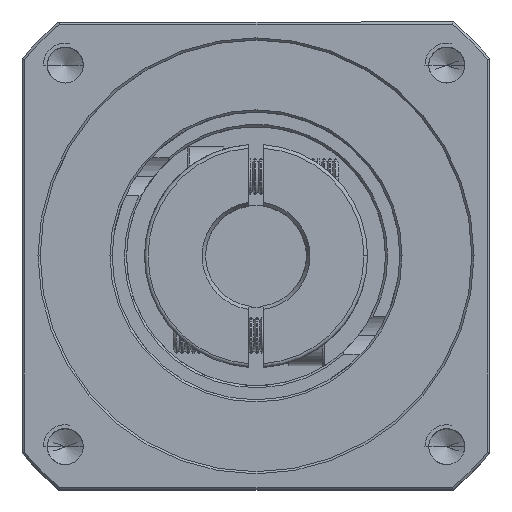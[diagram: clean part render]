
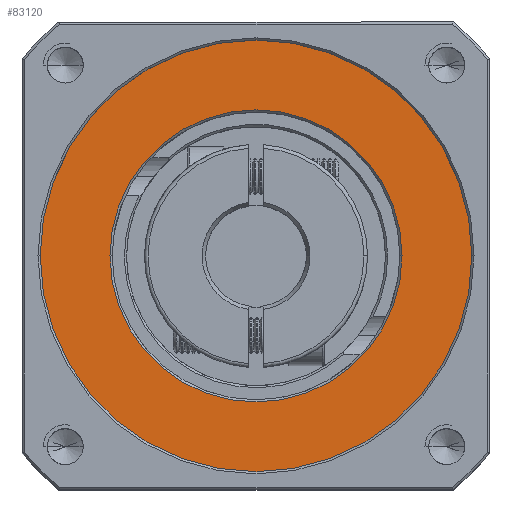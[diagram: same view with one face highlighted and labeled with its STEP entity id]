
A CAD part, top view. The second image highlights one B-rep face of the part: STEP entity #83120.
In plain terms, the highlighted planar face has unit normal (0, 0, 1).
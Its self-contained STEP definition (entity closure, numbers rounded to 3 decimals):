
#3950 = CIRCLE ( 'NONE', #61082, 30. ) ;
#4680 = VERTEX_POINT ( 'NONE', #36143 ) ;
#7693 = AXIS2_PLACEMENT_3D ( 'NONE', #92798, #40400, #101512 ) ;
#7899 = EDGE_LOOP ( 'NONE', ( #26863, #26972 ) ) ;
#8977 = EDGE_CURVE ( 'NONE', #4680, #63968, #44929, .T. ) ;
#12480 = CARTESIAN_POINT ( 'NONE',  ( -42.303, 26.852, -14.843 ) ) ;
#13452 = VERTEX_POINT ( 'NONE', #19909 ) ;
#13550 = EDGE_LOOP ( 'NONE', ( #70887, #32630 ) ) ;
#19909 = CARTESIAN_POINT ( 'NONE',  ( -72.303, 26.852, -14.843 ) ) ;
#21336 = DIRECTION ( 'NONE',  ( 1., 0., 0. ) ) ;
#23007 = EDGE_CURVE ( 'NONE', #108822, #13452, #55314, .T. ) ;
#26863 = ORIENTED_EDGE ( 'NONE', *, *, #62738, .T. ) ;
#26972 = ORIENTED_EDGE ( 'NONE', *, *, #8977, .T. ) ;
#29576 = EDGE_CURVE ( 'NONE', #13452, #108822, #3950, .T. ) ;
#32630 = ORIENTED_EDGE ( 'NONE', *, *, #29576, .T. ) ;
#36143 = CARTESIAN_POINT ( 'NONE',  ( -62.603, 26.852, -14.843 ) ) ;
#40400 = DIRECTION ( 'NONE',  ( 0., 0., 1. ) ) ;
#42835 = DIRECTION ( 'NONE',  ( 0., 0., 1. ) ) ;
#42963 = CARTESIAN_POINT ( 'NONE',  ( -42.303, 26.852, -14.843 ) ) ;
#44716 = DIRECTION ( 'NONE',  ( 0., 0., 1. ) ) ;
#44929 = CIRCLE ( 'NONE', #85153, 20.3 ) ;
#49185 = CARTESIAN_POINT ( 'NONE',  ( -22.003, 26.852, -14.843 ) ) ;
#51257 = AXIS2_PLACEMENT_3D ( 'NONE', #97092, #44716, #105840 ) ;
#51745 = DIRECTION ( 'NONE',  ( 1., 0., 0. ) ) ;
#55314 = CIRCLE ( 'NONE', #51257, 30. ) ;
#57629 = PLANE ( 'NONE',  #7693 ) ;
#58823 = AXIS2_PLACEMENT_3D ( 'NONE', #42963, #104056, #51745 ) ;
#61082 = AXIS2_PLACEMENT_3D ( 'NONE', #95210, #42835, #103924 ) ;
#62738 = EDGE_CURVE ( 'NONE', #63968, #4680, #107376, .T. ) ;
#63968 = VERTEX_POINT ( 'NONE', #49185 ) ;
#67667 = FACE_OUTER_BOUND ( 'NONE', #13550, .T. ) ;
#70887 = ORIENTED_EDGE ( 'NONE', *, *, #23007, .T. ) ;
#73742 = DIRECTION ( 'NONE',  ( 0., 0., -1. ) ) ;
#74294 = CARTESIAN_POINT ( 'NONE',  ( -12.303, 26.852, -14.843 ) ) ;
#83120 = ADVANCED_FACE ( 'NONE', ( #90901, #67667 ), #57629, .T. ) ;
#85153 = AXIS2_PLACEMENT_3D ( 'NONE', #12480, #73742, #21336 ) ;
#90901 = FACE_BOUND ( 'NONE', #7899, .T. ) ;
#92798 = CARTESIAN_POINT ( 'NONE',  ( -42.303, 26.852, -14.843 ) ) ;
#95210 = CARTESIAN_POINT ( 'NONE',  ( -42.303, 26.852, -14.843 ) ) ;
#97092 = CARTESIAN_POINT ( 'NONE',  ( -42.303, 26.852, -14.843 ) ) ;
#101512 = DIRECTION ( 'NONE',  ( 1., 0., 0. ) ) ;
#103924 = DIRECTION ( 'NONE',  ( 1., 0., 0. ) ) ;
#104056 = DIRECTION ( 'NONE',  ( 0., 0., -1. ) ) ;
#105840 = DIRECTION ( 'NONE',  ( 1., 0., 0. ) ) ;
#107376 = CIRCLE ( 'NONE', #58823, 20.3 ) ;
#108822 = VERTEX_POINT ( 'NONE', #74294 ) ;
